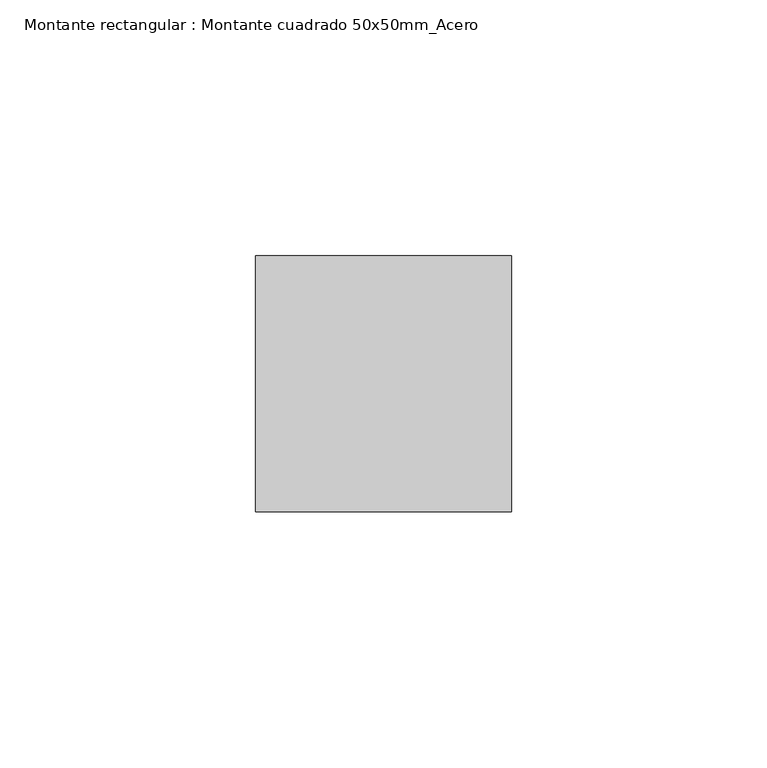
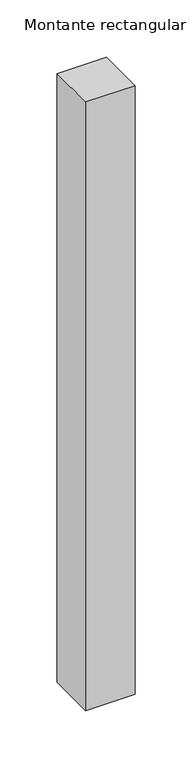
"""IFC4 building model written with IfcOpenShell, lengths in millimetres: member geometry, Montante rectangular : Montante cuadrado 50x50mm_Acero."""

from ifc_helpers import new_model, si_unit, frame, origin, place, context, project, spatial, polyline, outline, extrude, source, transform, mapped, element, save


def montante_rectangular_montante_cuadrado_50x50mm_acero_b2469dea(model_context):
    return source(origin(), model_context, "Body", "SweptSolid", [
        extrude(outline(polyline([(0.0, 0.0), (0.0, -50.0), (-50.0, -50.0), (-50.0, 0.0), (0.0, 0.0)])), frame((0.0, 0.0, -650.0), z_axis=(0.0, 0.0, 1.0), x_axis=(1.0, 0.0, 0.0)), (0.0, 0.0, 1.0), 650.0),
    ])


if __name__ == "__main__":
    model = new_model("IFC4")
    model_context = context("Model", 3, world=origin())
    ifc_project = project(units=[si_unit("LENGTHUNIT", "METRE", prefix="MILLI")], contexts=[model_context])
    site = spatial("IfcSite", under=ifc_project)
    building = spatial("IfcBuilding", under=site)
    placement = place(None, origin())
    montante_rectangular_montante_cuadrado_50x50mm_acero_shape = montante_rectangular_montante_cuadrado_50x50mm_acero_b2469dea(model_context)
    element("IfcMember", 1, ObjectType="Montante rectangular : Montante cuadrado 50x50mm_Acero", at=placement, inside=building, context=model_context, shape_type="MappedRepresentation", body=[
        mapped(montante_rectangular_montante_cuadrado_50x50mm_acero_shape, transform((0.0, 0.0, 0.0), x_axis=(1.0, 0.0, 0.0), y_axis=(0.0, 1.0, 0.0), z_axis=(0.0, 0.0, 1.0))),
    ])
    save(model, "model.ifc")
